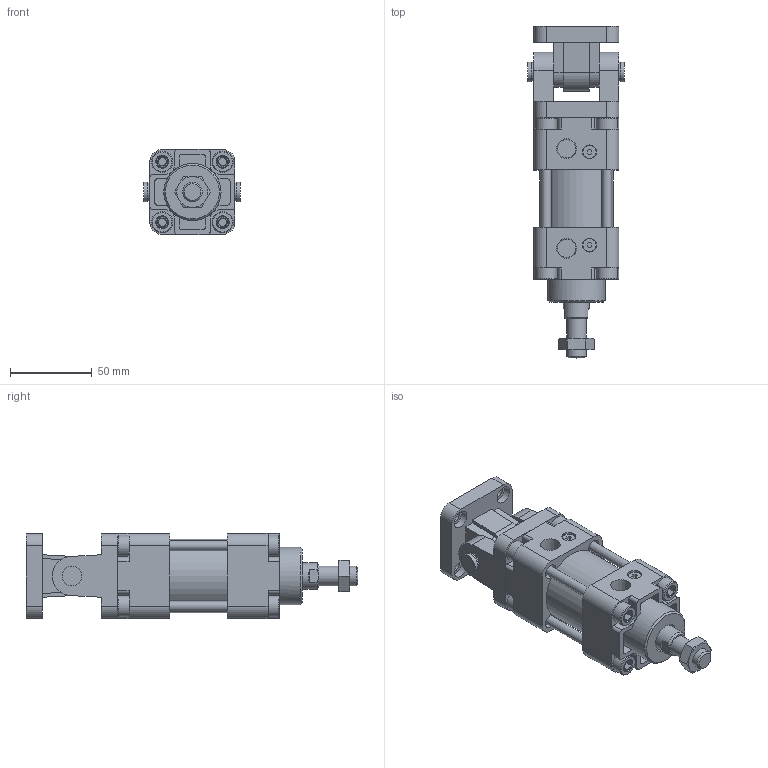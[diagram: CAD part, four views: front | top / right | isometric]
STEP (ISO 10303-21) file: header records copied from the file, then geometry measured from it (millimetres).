
FILE_DESCRIPTION(/* description */ ('Unknown'),/* implementation_level */ '2;1');
FILE_NAME(/* name */ 'WA40-CD',/* time_stamp */ '2026-07-17T16:48:19+08:00',/* author */ ('Unknown'),/* organization */ ('Unknown'),/* preprocessor_version */ 'ST-DEVELOPER v16.7',/* originating_system */ 'DEX',/* authorisation */ $);
FILE_SCHEMA (('CONFIG_CONTROL_DESIGN'));
Length unit declared in the file: millimetre
Products named in the file (10): WA40-CD; WA40_前; WA40_岃搵; WA40_鋁; WA40_¤ß¶b¬¡æ´»å¡žçµ„; WA40_CBP; M12-1.25P-7_Á³raditional)_Taiwan.950; WA40_T帽牙; WA40_CA; WA40_CB
Assembly tree (12 placements, depth 2):
  WA40-CD
    WA40_前
    WA40_岃搵
    WA40_鋁
    WA40_¤ß¶b¬¡æ´»å¡žçµ„
    WA40_CBP
    M12-1.25P-7_Á³raditional)_Taiwan.950
    WA40_T帽牙  x4
    WA40_CA
    WA40_CB
Bounding box: 59 x 203 x 52 mm (x, y, z)
Volume: 313452.5 mm3; surface area: 97401 mm2
Topology: 12 solids, 12 shells, 423 faces, 1016 edges, 683 vertices
Faces by surface type: plane 247, cylinder 139, cone 37
Full cylindrical faces by diameter (mm): 5 x8, 6 x4, 7 x8, 8 x2, 8.5 x2, 8.8 x8, 9 x8, 10.647 x1, 11 x8, 11.5 x2, 12 x7, 13 x8, 16 x2, 35 x1, 39.5 x1, 40 x3, 45 x1
Entity records: 10849 total; most frequent: CARTESIAN_POINT 1609, DIRECTION 1606, ORIENTED_EDGE 1394, EDGE_CURVE 697, AXIS2_PLACEMENT_3D 606, VERTEX_POINT 497, EDGE_LOOP 462, FACE_BOUND 462
